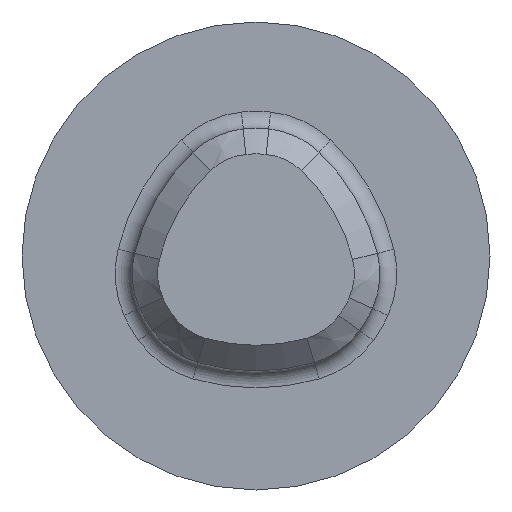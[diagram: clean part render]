
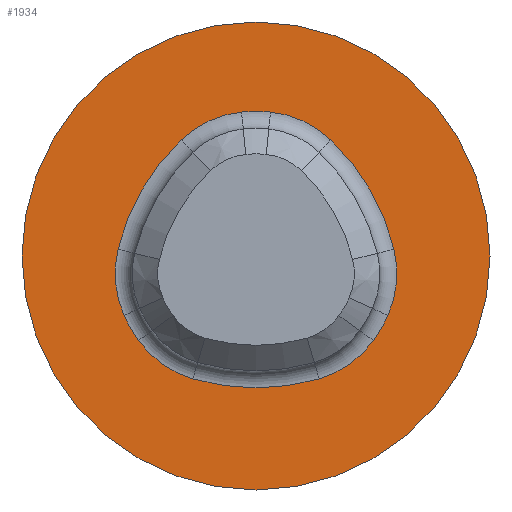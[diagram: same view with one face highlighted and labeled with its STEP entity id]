
A CAD part, front view. The second image highlights one B-rep face of the part: STEP entity #1934.
In plain terms, the highlighted planar face has unit normal (0, -1, 0).
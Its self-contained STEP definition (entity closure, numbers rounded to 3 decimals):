
#528=CARTESIAN_POINT('',(0.406,0.,-0.292));
#529=DIRECTION('',(0.,-1.,0.));
#530=DIRECTION('',(0.28,0.,-0.96));
#531=AXIS2_PLACEMENT_3D('',#528,#529,#530);
#536=CARTESIAN_POINT('',(0.,0.,0.));
#537=DIRECTION('',(0.,-1.,0.));
#538=DIRECTION('',(0.812,0.,-0.584));
#539=AXIS2_PLACEMENT_3D('',#536,#537,#538);
#544=CARTESIAN_POINT('',(0.456,0.,-0.205));
#545=DIRECTION('',(0.,-1.,0.));
#546=DIRECTION('',(0.912,0.,-0.411));
#547=AXIS2_PLACEMENT_3D('',#544,#545,#546);
#552=CARTESIAN_POINT('',(-0.953,0.,-0.55));
#553=DIRECTION('',(0.,-1.,0.));
#554=DIRECTION('',(0.971,0.,0.238));
#555=AXIS2_PLACEMENT_3D('',#552,#553,#554);
#560=CARTESIAN_POINT('',(0.05,0.,0.497));
#561=DIRECTION('',(0.,-1.,0.));
#562=DIRECTION('',(0.691,0.,0.722));
#563=AXIS2_PLACEMENT_3D('',#560,#561,#562);
#568=CARTESIAN_POINT('',(0.,0.,0.));
#569=DIRECTION('',(0.,-1.,0.));
#570=DIRECTION('',(0.1,0.,0.995));
#571=AXIS2_PLACEMENT_3D('',#568,#569,#570);
#576=CARTESIAN_POINT('',(-0.05,0.,0.497));
#577=DIRECTION('',(0.,-1.,0.));
#578=DIRECTION('',(-0.1,0.,0.995));
#579=AXIS2_PLACEMENT_3D('',#576,#577,#578);
#584=CARTESIAN_POINT('',(0.953,0.,-0.55));
#585=DIRECTION('',(0.,-1.,0.));
#586=DIRECTION('',(-0.691,0.,0.722));
#587=AXIS2_PLACEMENT_3D('',#584,#585,#586);
#592=CARTESIAN_POINT('',(-0.456,0.,-0.205));
#593=DIRECTION('',(0.,-1.,0.));
#594=DIRECTION('',(-0.971,0.,0.238));
#595=AXIS2_PLACEMENT_3D('',#592,#593,#594);
#600=CARTESIAN_POINT('',(0.,0.,0.));
#601=DIRECTION('',(0.,-1.,0.));
#602=DIRECTION('',(-0.912,0.,-0.411));
#603=AXIS2_PLACEMENT_3D('',#600,#601,#602);
#608=CARTESIAN_POINT('',(-0.406,0.,-0.292));
#609=DIRECTION('',(0.,-1.,0.));
#610=DIRECTION('',(-0.812,0.,-0.584));
#611=AXIS2_PLACEMENT_3D('',#608,#609,#610);
#616=CARTESIAN_POINT('',(0.,0.,1.1));
#617=DIRECTION('',(0.,-1.,0.));
#618=DIRECTION('',(-0.28,0.,-0.96));
#619=AXIS2_PLACEMENT_3D('',#616,#617,#618);
#632=CARTESIAN_POINT('',(0.,0.,0.));
#633=DIRECTION('',(0.,-1.,0.));
#634=DIRECTION('',(1.,0.,0.));
#635=AXIS2_PLACEMENT_3D('',#632,#633,#634);
#1125=CARTESIAN_POINT('',(0.,0.,0.));
#1126=DIRECTION('',(0.,1.,0.));
#1127=DIRECTION('',(1.,0.,0.));
#1128=AXIS2_PLACEMENT_3D('',#1125,#1126,#1127);
#1536=CARTESIAN_POINT('',(2.75,0.,0.));
#1537=CARTESIAN_POINT('',(-2.75,0.,0.));
#1538=VERTEX_POINT('',#1536);
#1539=VERTEX_POINT('',#1537);
#1596=CARTESIAN_POINT('',(0.742,0.,-1.444));
#1597=CARTESIAN_POINT('',(1.38,0.,-0.993));
#1598=VERTEX_POINT('',#1596);
#1599=VERTEX_POINT('',#1597);
#1604=CARTESIAN_POINT('',(1.55,0.,-0.699));
#1605=VERTEX_POINT('',#1604);
#1608=CARTESIAN_POINT('',(1.621,0.,0.08));
#1609=VERTEX_POINT('',#1608);
#1612=CARTESIAN_POINT('',(0.88,0.,1.364));
#1613=VERTEX_POINT('',#1612);
#1616=CARTESIAN_POINT('',(0.17,0.,1.691));
#1617=VERTEX_POINT('',#1616);
#1620=CARTESIAN_POINT('',(-0.17,0.,1.691));
#1621=VERTEX_POINT('',#1620);
#1624=CARTESIAN_POINT('',(-0.88,0.,1.364));
#1625=VERTEX_POINT('',#1624);
#1628=CARTESIAN_POINT('',(-1.621,0.,0.08));
#1629=VERTEX_POINT('',#1628);
#1632=CARTESIAN_POINT('',(-1.55,0.,-0.699));
#1633=VERTEX_POINT('',#1632);
#1636=CARTESIAN_POINT('',(-1.38,0.,-0.993));
#1637=VERTEX_POINT('',#1636);
#1640=CARTESIAN_POINT('',(-0.742,0.,-1.444));
#1641=VERTEX_POINT('',#1640);
#1898=CARTESIAN_POINT('',(0.,0.,0.));
#1899=DIRECTION('',(0.,-1.,0.));
#1900=DIRECTION('',(-1.,0.,0.));
#1901=AXIS2_PLACEMENT_3D('',#1898,#1899,#1900);
#1902=PLANE('',#1901);
#1904=ORIENTED_EDGE('',*,*,#1903,.F.);
#1906=ORIENTED_EDGE('',*,*,#1905,.T.);
#1907=EDGE_LOOP('',(#1904,#1906));
#1908=FACE_OUTER_BOUND('',#1907,.F.);
#1910=ORIENTED_EDGE('',*,*,#1909,.T.);
#1912=ORIENTED_EDGE('',*,*,#1911,.T.);
#1913=ORIENTED_EDGE('',*,*,#1888,.T.);
#1915=ORIENTED_EDGE('',*,*,#1914,.T.);
#1917=ORIENTED_EDGE('',*,*,#1916,.T.);
#1919=ORIENTED_EDGE('',*,*,#1918,.T.);
#1921=ORIENTED_EDGE('',*,*,#1920,.T.);
#1923=ORIENTED_EDGE('',*,*,#1922,.T.);
#1925=ORIENTED_EDGE('',*,*,#1924,.T.);
#1927=ORIENTED_EDGE('',*,*,#1926,.T.);
#1929=ORIENTED_EDGE('',*,*,#1928,.T.);
#1931=ORIENTED_EDGE('',*,*,#1930,.T.);
#1932=EDGE_LOOP('',(#1910,#1912,#1913,#1915,#1917,#1919,#1921,#1923,#1925,#1927,
#1929,#1931));
#1933=FACE_BOUND('',#1932,.F.);
#1934=ADVANCED_FACE('',(#1908,#1933),#1902,.T.);
#532=CIRCLE('',#531,1.2);
#540=CIRCLE('',#539,1.7);
#548=CIRCLE('',#547,1.2);
#556=CIRCLE('',#555,2.65);
#564=CIRCLE('',#563,1.2);
#572=CIRCLE('',#571,1.7);
#580=CIRCLE('',#579,1.2);
#588=CIRCLE('',#587,2.65);
#596=CIRCLE('',#595,1.2);
#604=CIRCLE('',#603,1.7);
#612=CIRCLE('',#611,1.2);
#620=CIRCLE('',#619,2.65);
#636=CIRCLE('',#635,2.75);
#1129=CIRCLE('',#1128,2.75);
#1888=EDGE_CURVE('',#1605,#1609,#548,.T.);
#1903=EDGE_CURVE('',#1538,#1539,#636,.T.);
#1905=EDGE_CURVE('',#1538,#1539,#1129,.T.);
#1909=EDGE_CURVE('',#1598,#1599,#532,.T.);
#1911=EDGE_CURVE('',#1599,#1605,#540,.T.);
#1914=EDGE_CURVE('',#1609,#1613,#556,.T.);
#1916=EDGE_CURVE('',#1613,#1617,#564,.T.);
#1918=EDGE_CURVE('',#1617,#1621,#572,.T.);
#1920=EDGE_CURVE('',#1621,#1625,#580,.T.);
#1922=EDGE_CURVE('',#1625,#1629,#588,.T.);
#1924=EDGE_CURVE('',#1629,#1633,#596,.T.);
#1926=EDGE_CURVE('',#1633,#1637,#604,.T.);
#1928=EDGE_CURVE('',#1637,#1641,#612,.T.);
#1930=EDGE_CURVE('',#1641,#1598,#620,.T.);
